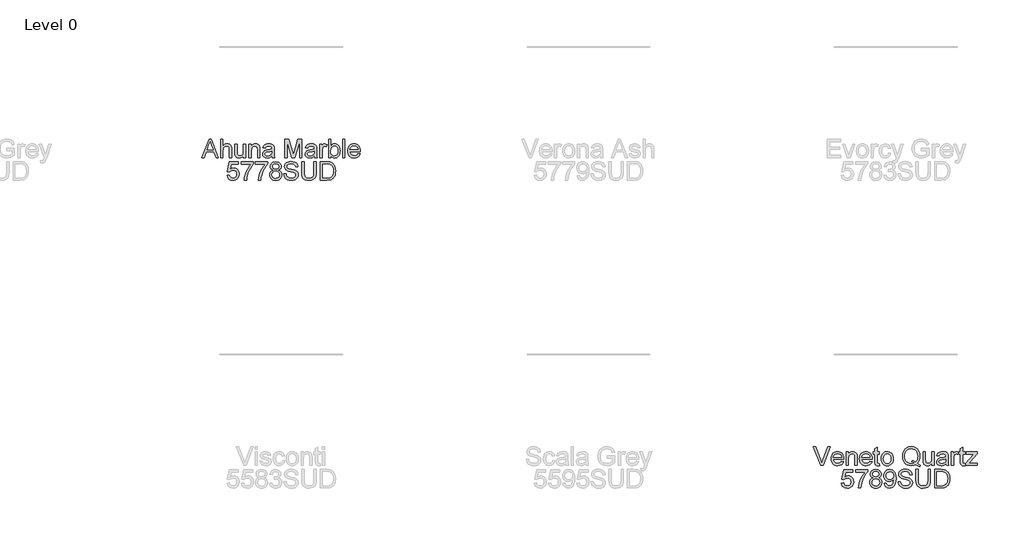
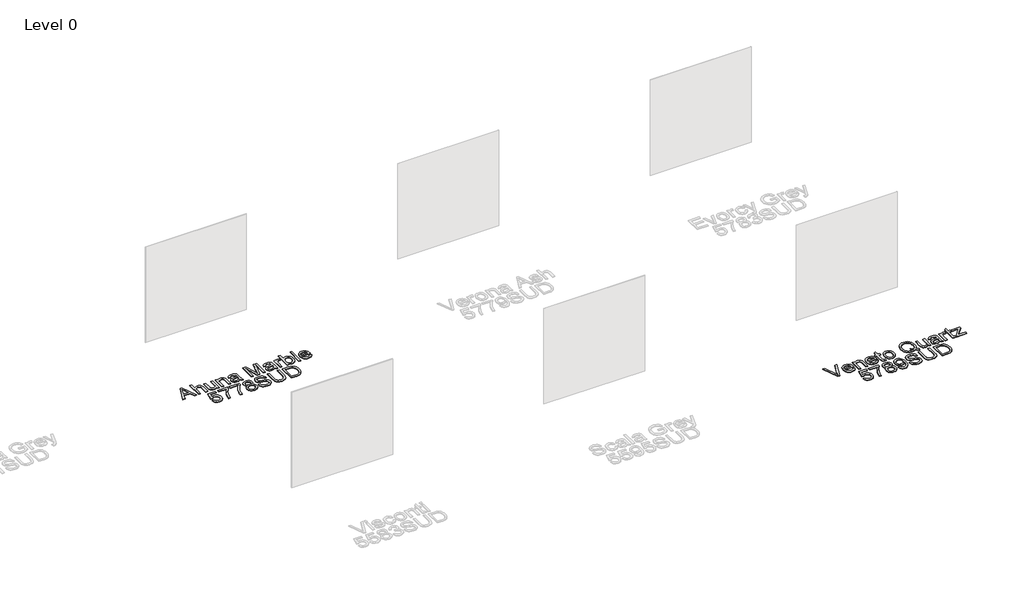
# One storey, part 8 of 12: 2 proxies.
"""IFC4 building model written with IfcOpenShell, lengths in millimetres."""

from ifc_helpers import new_model, si_unit, origin, origin_with_axes, place, context, project, spatial, polyline, outline, extrude, element, save

model = new_model("IFC4")

# Units and contexts
model_context = context("Model", 3, world=origin())
ifc_project = project(units=[si_unit("LENGTHUNIT", "METRE", prefix="MILLI")], contexts=[model_context])

# Site, building, storey
site = spatial("IfcSite", under=ifc_project)
building = spatial("IfcBuilding", under=site)
storey = spatial("IfcBuildingStorey", under=building, Name="Level 0", Elevation=0.0)

# Proxies
placement = place(None, origin())
element("IfcBuildingElementProxy", 1, Name="300mm Arial", ObjectType="300mm Arial", at=placement, inside=storey, context=model_context, shape_type="SweptSolid", body=[
    extrude(outline(polyline([(-747.7363949, -12002.860494), (-627.4389825, -11701.4915635), (-595.3596725, -11701.4915635), (-475.0622601, -12002.860494), (-514.867092, -12002.860494), (-549.3744231, -11908.6827032), (-673.4978083, -11908.6827032), (-707.931563, -12002.860494), (-747.7363949, -12002.860494)]), holes=[polyline([(-659.6654453, -11871.0115869), (-563.1332097, -11871.0115869), (-590.282901, -11796.9201531), (-611.3993275, -11739.1626798), (-630.1613092, -11790.44543), (-659.6654453, -11871.0115869)])]), origin_with_axes(), (0.0, 0.0, 1.0), 10.0),
    extrude(outline(polyline([(-439.5248593, -12002.860494), (-439.5248593, -11701.4915635), (-401.853743, -11701.4915635), (-401.853743, -11812.2976205), (-388.0167815, -11796.7821973), (-372.4783657, -11785.6997522), (-355.2384957, -11779.0502852), (-336.2971715, -11776.8337961), (-313.5436701, -11779.2526203), (-293.9907421, -11786.5090926), (-278.5948806, -11798.0329961), (-268.3125788, -11813.2541137), (-262.5184374, -11834.1682051), (-260.5870569, -11862.7710302), (-260.5870569, -12002.860494), (-298.2581732, -12002.860494), (-298.2581732, -11866.6705794), (-301.2564115, -11843.0893435), (-310.2511262, -11826.9393239), (-324.7456768, -11817.6135153), (-344.2434226, -11814.5049125), (-360.1635159, -11816.6018398), (-375.108722, -11822.8926219), (-387.4879511, -11832.7702535), (-395.7101137, -11845.6277292), (-400.3178357, -11862.7158479), (-401.853743, -11885.2854083), (-401.853743, -12002.860494), (-439.5248593, -12002.860494)])), origin_with_axes(), (0.0, 0.0, 1.0), 10.0),
    extrude(outline(polyline([(-67.5225858, -12002.860494), (-67.5225858, -11964.8214957), (-81.1526137, -11983.5236966), (-97.0267218, -11996.8824116), (-115.1449101, -12004.8976405), (-135.5071785, -12007.5693835), (-153.855293, -12005.6931853), (-170.9342147, -12000.0645908), (-185.2632184, -11991.6033049), (-195.3615791, -11981.2290327), (-206.58198, -11953.4907302), (-208.789272, -11918.4683643), (-208.789272, -11781.5426857), (-171.1181557, -11781.5426857), (-171.1181557, -11900.7364521), (-168.8372873, -11939.1433324), (-163.3466485, -11951.9548229), (-153.9380665, -11961.6944987), (-141.2369406, -11967.8473251), (-125.8686703, -11969.8982672), (-109.6174831, -11967.8013398), (-94.4147597, -11961.5105577), (-81.8791807, -11951.605335), (-73.6294269, -11938.6650858), (-69.0492961, -11920.9423707), (-67.5225858, -11896.6897502), (-67.5225858, -11781.5426857), (-29.8514695, -11781.5426857), (-29.8514695, -12002.860494), (-67.5225858, -12002.860494)])), origin_with_axes(), (0.0, 0.0, 1.0), 10.0),
    extrude(outline(polyline([(21.9463154, -12002.860494), (21.9463154, -11781.5426857), (59.6174317, -11781.5426857), (59.6174317, -11812.4447733), (72.7048337, -11796.8649708), (88.4225919, -11785.7365404), (106.7707064, -11779.0594822), (127.7491772, -11776.8337961), (146.3180209, -11778.6272209), (163.3233662, -11784.0074951), (177.5052171, -11792.303234), (187.6035778, -11802.8430532), (198.8975551, -11830.5445674), (200.8841179, -11866.964885), (200.8841179, -12002.860494), (163.2130016, -12002.860494), (163.2130016, -11872.0416565), (158.871994, -11838.7115477), (152.8663204, -11828.7879309), (143.5313148, -11821.0900002), (131.5659529, -11816.1511844), (117.6692106, -11814.5049125), (95.6054879, -11818.2021265), (76.7975209, -11829.2937687), (69.2812319, -11838.3482643), (63.912454, -11850.7228949), (59.6174317, -11885.4325611), (59.6174317, -12002.860494), (21.9463154, -12002.860494)])), origin_with_axes(), (0.0, 0.0, 1.0), 10.0),
    extrude(outline(polyline([(393.9485889, -11974.6071568), (375.9499623, -11990.0398064), (357.4179068, -12000.1381672), (337.9293581, -12005.7115794), (317.0612519, -12007.5693835), (285.5797502, -12003.0996173), (262.3571993, -11989.6903186), (248.0373926, -11969.3280501), (243.2641237, -11943.9993748), (245.0667455, -11928.3827841), (250.4746108, -11914.2009331), (258.8163351, -11902.0608273), (269.4205336, -11892.5694718), (295.7976726, -11880.2086368), (328.3920174, -11874.5432541), (366.9092623, -11868.5835657), (393.7278597, -11861.5938078), (393.9485889, -11853.2060983), (391.3550209, -11836.3938912), (383.5743167, -11825.3942195), (366.1734983, -11817.2272392), (341.9300748, -11814.5049125), (319.4892731, -11816.3167313), (303.8175001, -11821.7521878), (293.1305282, -11831.8045633), (285.6441295, -11847.4671392), (247.9730132, -11842.7582497), (254.5121157, -11822.156858), (264.2701856, -11805.9700502), (278.1577309, -11793.590821), (297.0852596, -11784.4121652), (320.2342341, -11778.7283884), (346.7861171, -11776.8337961), (372.2527483, -11778.5076592), (392.4402727, -11783.5292485), (407.6613903, -11791.0800264), (418.2288006, -11800.3414556), (425.2369526, -11811.7917827), (429.7802953, -11825.9092543), (431.6197052, -11858.8714811), (431.6197052, -11905.7396473), (433.5326916, -11971.1858542), (441.0374843, -12002.860494), (403.366368, -12002.860494), (393.9485889, -11974.6071568)]), holes=[polyline([(393.9485889, -11899.2649241), (333.1744833, -11910.8164188), (300.7640796, -11916.9232599), (286.0855879, -11926.8560738), (280.93524, -11941.3506244), (283.7403402, -11952.5526311), (292.1556409, -11961.7312869), (305.9972009, -11967.8565221), (325.0810794, -11969.8982672), (345.3145892, -11967.64499), (363.1936541, -11960.8851583), (377.6882047, -11950.9247533), (387.7681714, -11939.069756), (392.2379377, -11926.8560738), (393.7278597, -11909.933502), (393.9485889, -11899.2649241)])]), origin_with_axes(), (0.0, 0.0, 1.0), 10.0),
    extrude(outline(polyline([(605.8486182, -12002.860494), (605.8486182, -11701.4915635), (670.6694257, -11701.4915635), (732.3264481, -11913.9066275), (744.7608595, -11958.2731962), (758.2253406, -11910.2278076), (818.8522934, -11701.4915635), (883.6731009, -11701.4915635), (883.6731009, -12002.860494), (846.0019846, -12002.860494), (846.0019846, -11739.1626798), (770.29187, -12002.860494), (719.2298491, -12002.860494), (643.5197345, -11739.1626798), (643.5197345, -12002.860494), (605.8486182, -12002.860494)])), origin_with_axes(), (0.0, 0.0, 1.0), 10.0),
    extrude(outline(polyline([(1086.1553511, -11974.6071568), (1068.1567244, -11990.0398064), (1049.6246689, -12000.1381672), (1030.1361202, -12005.7115794), (1009.2680141, -12007.5693835), (977.7865123, -12003.0996173), (954.5639614, -11989.6903186), (940.2441547, -11969.3280501), (935.4708858, -11943.9993748), (937.2735076, -11928.3827841), (942.6813729, -11914.2009331), (951.0230972, -11902.0608273), (961.6272957, -11892.5694718), (988.0044347, -11880.2086368), (1020.5987795, -11874.5432541), (1059.1160244, -11868.5835657), (1085.9346219, -11861.5938078), (1086.1553511, -11853.2060983), (1083.561783, -11836.3938912), (1075.7810788, -11825.3942195), (1058.3802604, -11817.2272392), (1034.1368369, -11814.5049125), (1011.6960352, -11816.3167313), (996.0242622, -11821.7521878), (985.3372903, -11831.8045633), (977.8508917, -11847.4671392), (940.1797754, -11842.7582497), (946.7188778, -11822.156858), (956.4769478, -11805.9700502), (970.3644931, -11793.590821), (989.2920217, -11784.4121652), (1012.4409963, -11778.7283884), (1038.9928793, -11776.8337961), (1064.4595104, -11778.5076592), (1084.6470349, -11783.5292485), (1099.8681524, -11791.0800264), (1110.4355627, -11800.3414556), (1117.4437147, -11811.7917827), (1121.9870574, -11825.9092543), (1123.8264674, -11858.8714811), (1123.8264674, -11905.7396473), (1125.7394537, -11971.1858542), (1133.2442464, -12002.860494), (1095.5731301, -12002.860494), (1086.1553511, -11974.6071568)]), holes=[polyline([(1086.1553511, -11899.2649241), (1025.3812455, -11910.8164188), (992.9708417, -11916.9232599), (978.2923501, -11926.8560738), (973.1420021, -11941.3506244), (975.9471023, -11952.5526311), (984.362403, -11961.7312869), (998.2039631, -11967.8565221), (1017.2878416, -11969.8982672), (1037.5213513, -11967.64499), (1055.4004163, -11960.8851583), (1069.8949669, -11950.9247533), (1079.9749335, -11939.069756), (1084.4446998, -11926.8560738), (1085.9346219, -11909.933502), (1086.1553511, -11899.2649241)])]), origin_with_axes(), (0.0, 0.0, 1.0), 10.0),
    extrude(outline(polyline([(1175.6242523, -12002.860494), (1175.6242523, -11781.5426857), (1208.586479, -11781.5426857), (1208.586479, -11814.2841833), (1220.7633731, -11795.3014723), (1231.9837739, -11784.1178596), (1243.240963, -11778.654812), (1255.5282216, -11776.8337961), (1274.2902034, -11779.7400639), (1293.3464907, -11788.4588672), (1280.7649265, -11822.2304343), (1267.5211747, -11816.4362929), (1254.2774229, -11814.5049125), (1243.0294308, -11816.3627165), (1232.9770553, -11821.9361288), (1224.8560603, -11830.8020848), (1219.4022097, -11842.5375205), (1214.8220789, -11863.5803706), (1213.2953686, -11886.5362071), (1213.2953686, -12002.860494), (1175.6242523, -12002.860494)])), origin_with_axes(), (0.0, 0.0, 1.0), 10.0),
    extrude(outline(polyline([(1354.5620547, -12002.860494), (1316.8909384, -12002.860494), (1316.8909384, -11701.4915635), (1354.5620547, -11701.4915635), (1354.5620547, -11813.2541137), (1366.9504809, -11797.3202248), (1380.9391938, -11785.9388755), (1396.5281933, -11779.110066), (1413.7174796, -11776.8337961), (1433.1232548, -11778.8847383), (1451.4621723, -11785.0375646), (1467.6857683, -11794.9059992), (1480.7455791, -11808.1037657), (1490.9818956, -11824.5021057), (1498.7350086, -11843.9722603), (1503.6186421, -11865.7048891), (1505.24652, -11888.8906519), (1503.5611606, -11915.64487), (1498.5050824, -11939.1801206), (1490.0782854, -11959.4964038), (1478.2807697, -11976.5937195), (1464.1196122, -11990.1455725), (1448.6018898, -11999.8254675), (1431.7276025, -12005.6334045), (1413.4967504, -12007.5693835), (1395.7418456, -12005.0723845), (1380.0010947, -11997.5813874), (1366.2744978, -11985.0963921), (1354.5620547, -11967.6173988), (1354.5620547, -12002.860494)]), holes=[polyline([(1354.5620547, -11890.6564855), (1357.1372287, -11922.0736078), (1364.8627506, -11943.3371872), (1373.9908226, -11954.9576597), (1384.5996196, -11963.2579972), (1396.6891417, -11968.2381997), (1410.2593888, -11969.8982672), (1432.0012147, -11965.0054367), (1450.5792555, -11950.3269451), (1463.3263666, -11925.9547629), (1467.5754037, -11891.9808606), (1463.5011106, -11857.5103177), (1451.2782313, -11833.414047), (1433.2796047, -11819.2321961), (1411.8780696, -11814.5049125), (1390.1362437, -11819.397743), (1371.5582029, -11834.0762346), (1358.8110918, -11858.0069584), (1354.5620547, -11890.6564855)])]), origin_with_axes(), (0.0, 0.0, 1.0), 10.0),
    extrude(outline(polyline([(1547.6265258, -12002.860494), (1547.6265258, -11701.4915635), (1585.2976421, -11701.4915635), (1585.2976421, -12002.860494), (1547.6265258, -12002.860494)])), origin_with_axes(), (0.0, 0.0, 1.0), 10.0),
    extrude(outline(polyline([(1796.7562129, -11936.9360404), (1833.6915653, -11941.64493), (1820.3834341, -11969.4752029), (1799.1474459, -11990.2789297), (1770.4618473, -12003.2467701), (1734.804885, -12007.5693835), (1711.4305827, -12005.7046817), (1690.6038632, -12000.1105761), (1672.3247266, -11990.7870668), (1656.5931728, -11977.7341537), (1643.9426307, -11961.3151204), (1634.9065292, -11941.8932503), (1629.4848683, -11919.4685435), (1627.677648, -11894.0409998), (1629.5032624, -11867.7512327), (1634.9801056, -11844.5792656), (1644.1081776, -11824.5250983), (1656.8874784, -11807.5887309), (1672.5776455, -11794.133447), (1690.4383163, -11784.5225298), (1710.469491, -11778.7559796), (1732.6711694, -11776.8337961), (1754.1577772, -11778.751381), (1773.5888443, -11784.5041357), (1790.9643708, -11794.0920602), (1806.2843566, -11807.5151545), (1818.7900452, -11824.4147337), (1827.7226799, -11844.4321128), (1833.0822607, -11867.5672917), (1834.8687876, -11893.8202706), (1834.6480584, -11903.9738137), (1665.3487643, -11903.9738137), (1671.8694726, -11932.1719686), (1687.0170138, -11952.902119), (1708.8784013, -11965.6492302), (1735.5406489, -11969.8982672), (1755.5902177, -11967.9300985), (1772.4760013, -11962.0255925), (1786.1979997, -11951.8168672), (1796.7562129, -11936.9360404)]), holes=[polyline([(1665.3487643, -11866.3026974), (1797.1976713, -11866.3026974), (1792.1025057, -11846.4002814), (1782.1145095, -11832.1632482), (1760.1519544, -11818.9194964), (1732.5240166, -11814.5049125), (1707.1309619, -11818.0273826), (1686.134097, -11828.5947929), (1671.5383788, -11845.0667092), (1665.3487643, -11866.3026974)])]), origin_with_axes(), (0.0, 0.0, 1.0), 10.0),
    extrude(outline(polyline([(-333.5748447, -12288.7338254), (-295.9037284, -12284.0249358), (-288.9875469, -12306.6404815), (-276.9210175, -12322.8364863), (-259.7593224, -12332.5761621), (-237.557644, -12335.8227207), (-210.5551055, -12331.3069693), (-190.3215958, -12317.7597148), (-177.6848493, -12296.7444558), (-173.4726004, -12269.8246908), (-177.4181348, -12244.4776213), (-189.254738, -12225.0902402), (-209.0743805, -12212.7845875), (-236.9690328, -12208.6827032), (-255.2435709, -12210.3197781), (-270.0416242, -12215.2310027), (-291.1948389, -12232.2271509), (-328.8659552, -12227.5182614), (-295.9037284, -12072.1249066), (-149.9281527, -12072.1249066), (-149.9281527, -12109.7960229), (-265.4430992, -12109.7960229), (-281.5563306, -12192.790201), (-254.6457627, -12176.4562404), (-226.4476077, -12171.0115869), (-208.1017925, -12172.6992456), (-191.2504978, -12177.7622215), (-175.8937238, -12186.2005148), (-162.0314704, -12198.0141254), (-150.5558514, -12212.4810848), (-142.3589807, -12228.8794248), (-137.4408583, -12247.2091452), (-135.8014841, -12267.470246), (-141.7059901, -12305.1413624), (-149.0866227, -12321.9351754), (-159.4195082, -12337.3678251), (-175.0728871, -12353.1729553), (-193.3382282, -12364.4623341), (-214.2155314, -12371.2359613), (-237.7047968, -12373.4938371), (-274.7045285, -12367.6904986), (-290.3831992, -12360.4363255), (-304.1810733, -12350.2804832), (-315.6612908, -12337.7288093), (-324.3869919, -12323.2871418), (-333.5748447, -12288.7338254)])), origin_with_axes(), (0.0, 0.0, 1.0), 10.0),
    extrude(outline(polyline([(-102.8392574, -12109.7960229), (-102.8392574, -12072.1249066), (94.9341033, -12072.1249066), (94.9341033, -12102.5855358), (66.7451454, -12138.2608923), (38.832099, -12183.6299393), (14.2115965, -12234.5540045), (-4.0997299, -12286.8944154), (-13.0760505, -12326.0554538), (-18.0792457, -12368.7849475), (-55.750362, -12368.7849475), (-51.6760689, -12329.9550029), (-40.7775648, -12283.8042066), (-23.3491552, -12234.8850983), (0.3148541, -12187.7502177), (27.9427919, -12145.1402856), (57.2629869, -12109.7960229), (-102.8392574, -12109.7960229)])), origin_with_axes(), (0.0, 0.0, 1.0), 10.0),
    extrude(outline(polyline([(127.89633, -12109.7960229), (127.89633, -12072.1249066), (325.6696906, -12072.1249066), (325.6696906, -12102.5855358), (297.4807327, -12138.2608923), (269.5676864, -12183.6299393), (244.9471838, -12234.5540045), (226.6358575, -12286.8944154), (217.6595368, -12326.0554538), (212.6563417, -12368.7849475), (174.9852254, -12368.7849475), (179.0595185, -12329.9550029), (189.9580226, -12283.8042066), (207.3864321, -12234.8850983), (231.0504415, -12187.7502177), (258.6783793, -12145.1402856), (287.9985743, -12109.7960229), (127.89633, -12109.7960229)])), origin_with_axes(), (0.0, 0.0, 1.0), 10.0),
    extrude(outline(polyline([(413.5199111, -12202.7965913), (393.3507807, -12192.8637774), (379.1965209, -12179.3992964), (370.8364026, -12162.6790597), (368.0496965, -12142.9789789), (369.5672097, -12127.6153071), (374.1197494, -12113.5300252), (381.7073155, -12100.7231332), (392.3299082, -12089.1946312), (405.477091, -12079.6664875), (420.6384277, -12072.8606706), (457.0035629, -12067.4160171), (493.5894273, -12072.9894293), (508.9163109, -12079.9561946), (522.2658288, -12089.709666), (533.0815595, -12101.4634957), (540.8070814, -12114.4313361), (545.4423945, -12128.613187), (546.9874989, -12144.0090485), (544.237581, -12163.0745329), (535.9878273, -12179.509661), (522.1462672, -12192.8913686), (502.6209303, -12202.7965913), (525.8066931, -12214.7435591), (542.6832796, -12232.3375155), (552.9747784, -12254.732332), (556.405278, -12281.0818799), (554.7038238, -12299.8714528), (549.5994611, -12317.0975272), (541.09219, -12332.7601031), (529.1820104, -12346.8591806), (514.4943217, -12358.5118428), (497.6545234, -12366.8351729), (478.6626154, -12371.829171), (457.5185977, -12373.4938371), (436.37458, -12371.8222732), (417.382672, -12366.8075818), (400.5428737, -12358.4497627), (385.855185, -12346.748816), (373.9450054, -12332.5508703), (365.4377343, -12316.702054), (360.3333716, -12299.2023674), (358.6319174, -12280.0518103), (362.2003727, -12252.6813898), (372.9057388, -12230.1670117), (390.1961926, -12213.2812282), (413.5199111, -12202.7965913)]), holes=[polyline([(405.7208128, -12144.0826249), (409.0593419, -12160.52695), (419.0749292, -12173.6603373), (435.4732691, -12182.268776), (457.9600561, -12185.1382555), (479.9226112, -12182.2871701), (496.0726308, -12173.7339137), (506.0054447, -12161.0419848), (509.3163826, -12145.774882), (505.8950801, -12129.9283651), (495.6311724, -12116.822569), (479.2604236, -12108.0209923), (457.5185977, -12105.0871334), (435.638816, -12107.9566129), (419.2956584, -12116.5650516), (409.1145242, -12129.1834041), (405.7208128, -12144.0826249)]), polyline([(396.3030337, -12278.7274351), (402.5938158, -12307.0911369), (411.3034221, -12319.2588339), (424.8506765, -12328.317928), (441.0742725, -12333.9465226), (457.8129033, -12335.8227207), (483.4542784, -12331.8771864), (502.6945067, -12320.0405832), (514.7242479, -12302.1155329), (518.7341617, -12279.9046575), (514.5954892, -12257.316703), (502.1794719, -12238.9961796), (482.4977852, -12226.8560738), (456.5621045, -12222.8093718), (431.2794144, -12226.8008915), (412.2323241, -12238.7754504), (400.2853563, -12256.7464859), (396.3030337, -12278.7274351)])]), origin_with_axes(), (0.0, 0.0, 1.0), 10.0),
    extrude(outline(polyline([(589.3675048, -12265.1893777), (627.0386211, -12265.1893777), (631.3612345, -12286.0942721), (639.1787269, -12302.8972822), (651.3740151, -12316.2330045), (668.8300157, -12326.7360355), (690.1671714, -12333.5510494), (714.0059247, -12335.8227207), (734.9935926, -12334.1028724), (753.3692982, -12328.9433274), (768.259322, -12320.7763471), (778.7899441, -12310.0341929), (785.0531351, -12297.700949), (787.1408654, -12284.7606998), (785.5773669, -12272.1515444), (780.8868715, -12261.2530403), (771.3587278, -12251.9548229), (755.2822846, -12244.1465276), (700.4310791, -12229.7623415), (664.4246288, -12220.2433949), (641.3860189, -12211.1843008), (622.6332342, -12198.510766), (609.3434971, -12183.1516928), (601.4248372, -12165.4381747), (598.7852838, -12145.7013056), (602.0502366, -12123.637583), (611.8450947, -12103.0637824), (627.9123408, -12085.6261758), (649.9944576, -12072.9710352), (676.5003553, -12065.2731044), (705.8389444, -12062.7071275), (737.6239488, -12065.3926661), (765.4358277, -12073.4492818), (788.2812996, -12086.7114277), (805.1670831, -12105.013557), (815.8540551, -12127.2152354), (820.1030921, -12152.1760288), (782.4319758, -12152.1760288), (775.5157943, -12129.6984389), (761.0948201, -12113.4748429), (738.5620479, -12103.6523936), (707.3104724, -12100.3782438), (675.3231329, -12103.6156054), (653.3789719, -12113.3276901), (640.6870431, -12127.6199056), (636.4564002, -12144.5976597), (639.4546384, -12159.0738162), (648.4493532, -12170.7172813), (669.7129325, -12181.1283418), (709.9592228, -12191.7601314), (751.4931, -12201.8584922), (776.6194403, -12210.669266), (798.0945518, -12224.3360821), (813.076546, -12241.2034716), (821.8781228, -12261.0874934), (824.8119817, -12283.8042066), (821.4366644, -12307.0267576), (811.3107125, -12328.869751), (794.8479932, -12347.668521), (772.4623738, -12361.7584014), (745.5426088, -12370.5599781), (715.4774527, -12373.4938371), (678.5696915, -12370.3300519), (648.1918358, -12360.8386964), (623.9943976, -12344.9829824), (605.627889, -12322.7261217), (593.837271, -12295.6132187), (589.3675048, -12265.1893777)])), origin_with_axes(), (0.0, 0.0, 1.0), 10.0),
    extrude(outline(polyline([(1079.0920167, -12067.4160171), (1116.7631331, -12067.4160171), (1116.7631331, -12241.277048), (1114.2063532, -12281.9923878), (1106.5360136, -12313.3451308), (1092.2070099, -12337.533372), (1069.6742377, -12356.7552063), (1038.8825147, -12369.3091794), (999.7766586, -12373.4938371), (961.5261281, -12369.8518053), (930.9459373, -12358.92571), (908.026889, -12341.0926303), (892.7597862, -12316.7296452), (884.1789387, -12284.052527), (881.3186561, -12241.277048), (881.3186561, -12067.4160171), (918.9897724, -12067.4160171), (918.9897724, -12239.9526728), (920.8475765, -12273.8070134), (926.4209887, -12297.3790523), (936.5193495, -12313.7038158), (951.9519992, -12325.8163305), (972.0751444, -12333.3211232), (996.2449914, -12335.8227207), (1034.5599012, -12330.8747079), (1048.9027005, -12324.6896919), (1060.0357294, -12316.0306694), (1068.3728551, -12303.8537754), (1074.3279449, -12287.1151446), (1079.0920167, -12239.9526728), (1079.0920167, -12067.4160171)])), origin_with_axes(), (0.0, 0.0, 1.0), 10.0),
    extrude(outline(polyline([(1182.6875866, -12368.7849475), (1182.6875866, -12067.4160171), (1286.6510384, -12067.4160171), (1340.4353861, -12071.7570246), (1364.4580804, -12080.12634), (1384.7283783, -12093.3149095), (1405.5688934, -12116.270746), (1420.4129319, -12144.8183889), (1429.2972821, -12178.406015), (1432.2587321, -12216.4818015), (1430.2537752, -12248.8278259), (1424.2389046, -12277.2926953), (1415.0786429, -12301.5269217), (1403.6375129, -12321.1810173), (1390.4673375, -12336.6964405), (1376.1199397, -12348.5146496), (1359.6480233, -12357.2794381), (1340.1042923, -12363.6345996), (1291.6542336, -12368.7849475), (1182.6875866, -12368.7849475)]), holes=[polyline([(1220.3587029, -12331.1138312), (1287.0189204, -12331.1138312), (1314.591676, -12329.7526678), (1335.5057674, -12325.6691777), (1351.287905, -12319.1024841), (1363.464799, -12310.2917103), (1376.552201, -12293.9853408), (1386.3838473, -12272.8781114), (1392.5366737, -12246.8780514), (1394.5876158, -12215.8931903), (1390.568505, -12174.8375597), (1378.5111726, -12144.5240833), (1360.696487, -12123.7019623), (1339.4053165, -12111.1203981), (1317.737067, -12106.5954496), (1285.9888508, -12105.0871334), (1220.3587029, -12105.0871334), (1220.3587029, -12331.1138312)])]), origin_with_axes(), (0.0, 0.0, 1.0), 10.0),
])
element("IfcBuildingElementProxy", 2, Name="300mm Arial", ObjectType="300mm Arial", at=placement, inside=storey, context=model_context, shape_type="SweptSolid", body=[
    extrude(outline(polyline([(9329.2980949, -17012.860494), (9209.3685645, -16711.4915635), (9249.6884311, -16711.4915635), (9329.9602825, -16928.6155171), (9346.2206667, -16977.5438224), (9362.2603217, -16928.6155171), (9442.7529022, -16711.4915635), (9483.0727689, -16711.4915635), (9368.22001, -17012.860494), (9329.2980949, -17012.860494)])), origin_with_axes(), (0.0, 0.0, 1.0), 10.0),
    extrude(outline(polyline([(9668.3381416, -16946.9360404), (9705.273494, -16951.64493), (9691.9653628, -16979.4752029), (9670.7293746, -17000.2789297), (9642.043776, -17013.2467701), (9606.3868137, -17017.5693835), (9583.0125114, -17015.7046817), (9562.1857919, -17010.1105761), (9543.9066553, -17000.7870668), (9528.1751015, -16987.7341537), (9515.5245594, -16971.3151204), (9506.4884579, -16951.8932503), (9501.066797, -16929.4685435), (9499.2595767, -16904.0409998), (9501.0851911, -16877.7512327), (9506.5620343, -16854.5792656), (9515.6901063, -16834.5250983), (9528.4694071, -16817.5887309), (9544.1595742, -16804.133447), (9562.020245, -16794.5225298), (9582.0514197, -16788.7559796), (9604.2530981, -16786.8337961), (9625.7397059, -16788.751381), (9645.170773, -16794.5041357), (9662.5462995, -16804.0920602), (9677.8662853, -16817.5151545), (9690.3719739, -16834.4147337), (9699.3046086, -16854.4321128), (9704.6641894, -16877.5672917), (9706.4507163, -16903.8202706), (9706.2299871, -16913.9738137), (9536.930693, -16913.9738137), (9543.4514013, -16942.1719686), (9558.5989425, -16962.902119), (9580.46033, -16975.6492302), (9607.1225776, -16979.8982672), (9627.1721464, -16977.9300985), (9644.05793, -16972.0255925), (9657.7799284, -16961.8168672), (9668.3381416, -16946.9360404)]), holes=[polyline([(9536.930693, -16876.3026974), (9668.7796, -16876.3026974), (9663.6844344, -16856.4002814), (9653.6964382, -16842.1632482), (9631.7338831, -16828.9194964), (9604.1059453, -16824.5049125), (9578.7128906, -16828.0273826), (9557.7160257, -16838.5947929), (9543.1203075, -16855.0667092), (9536.930693, -16876.3026974)])]), origin_with_axes(), (0.0, 0.0, 1.0), 10.0),
    extrude(outline(polyline([(9744.1218326, -17012.860494), (9744.1218326, -16791.5426857), (9781.792949, -16791.5426857), (9781.792949, -16822.4447733), (9794.8803509, -16806.8649708), (9810.5981092, -16795.7365404), (9828.9462237, -16789.0594822), (9849.9246945, -16786.8337961), (9868.4935382, -16788.6272209), (9885.4988834, -16794.0074951), (9899.6807343, -16802.303234), (9909.7790951, -16812.8430532), (9921.0730723, -16840.5445674), (9923.0596351, -16876.964885), (9923.0596351, -17012.860494), (9885.3885188, -17012.860494), (9885.3885188, -16882.0416565), (9881.0475113, -16848.7115477), (9875.0418377, -16838.7879309), (9865.7068321, -16831.0900002), (9853.7414702, -16826.1511844), (9839.8447278, -16824.5049125), (9817.7810051, -16828.2021265), (9798.9730381, -16839.2937687), (9791.4567491, -16848.3482643), (9786.0879712, -16860.7228949), (9781.792949, -16895.4325611), (9781.792949, -17012.860494), (9744.1218326, -17012.860494)])), origin_with_axes(), (0.0, 0.0, 1.0), 10.0),
    extrude(outline(polyline([(10129.8093164, -16946.9360404), (10166.7446687, -16951.64493), (10153.4365375, -16979.4752029), (10132.2005494, -17000.2789297), (10103.5149508, -17013.2467701), (10067.8579884, -17017.5693835), (10044.4836861, -17015.7046817), (10023.6569667, -17010.1105761), (10005.37783, -17000.7870668), (9989.6462762, -16987.7341537), (9976.9957341, -16971.3151204), (9967.9596326, -16951.8932503), (9962.5379717, -16929.4685435), (9960.7307514, -16904.0409998), (9962.5563658, -16877.7512327), (9968.033209, -16854.5792656), (9977.161281, -16834.5250983), (9989.9405818, -16817.5887309), (10005.6307489, -16804.133447), (10023.4914198, -16794.5225298), (10043.5225944, -16788.7559796), (10065.7242728, -16786.8337961), (10087.2108806, -16788.751381), (10106.6419477, -16794.5041357), (10124.0174742, -16804.0920602), (10139.3374601, -16817.5151545), (10151.8431486, -16834.4147337), (10160.7757833, -16854.4321128), (10166.1353642, -16877.5672917), (10167.9218911, -16903.8202706), (10167.7011619, -16913.9738137), (9998.4018677, -16913.9738137), (10004.9225761, -16942.1719686), (10020.0701172, -16962.902119), (10041.9315048, -16975.6492302), (10068.5937524, -16979.8982672), (10088.6433211, -16977.9300985), (10105.5291047, -16972.0255925), (10119.2511031, -16961.8168672), (10129.8093164, -16946.9360404)]), holes=[polyline([(9998.4018677, -16876.3026974), (10130.2507748, -16876.3026974), (10125.1556092, -16856.4002814), (10115.167613, -16842.1632482), (10093.2050579, -16828.9194964), (10065.57712, -16824.5049125), (10040.1840653, -16828.0273826), (10019.1872004, -16838.5947929), (10004.5914823, -16855.0667092), (9998.4018677, -16876.3026974)])]), origin_with_axes(), (0.0, 0.0, 1.0), 10.0),
    extrude(outline(polyline([(10285.6441295, -16981.4433716), (10290.3530191, -17013.96414), (10262.1732583, -17017.5693835), (10244.0918582, -17016.005885), (10230.6089831, -17011.3153896), (10221.0808394, -17004.0865084), (10214.8636337, -16994.9078526), (10211.4423311, -16979.1441091), (10210.3018969, -16952.1599648), (10210.3018969, -16829.213802), (10182.0485597, -16829.213802), (10182.0485597, -16791.5426857), (10210.3018969, -16791.5426857), (10210.3018969, -16737.758338), (10247.9730132, -16715.6118419), (10247.9730132, -16791.5426857), (10285.6441295, -16791.5426857), (10285.6441295, -16829.213802), (10247.9730132, -16829.213802), (10247.9730132, -16951.0563188), (10249.959576, -16970.4804881), (10256.3975109, -16977.3598814), (10269.2365926, -16979.8982672), (10285.6441295, -16981.4433716)])), origin_with_axes(), (0.0, 0.0, 1.0), 10.0),
    extrude(outline(polyline([(10313.8974668, -16902.2015898), (10315.9346133, -16873.5389839), (10322.046053, -16848.8403064), (10332.2317857, -16828.1055575), (10346.4918116, -16811.334737), (10360.8484064, -16800.6155754), (10376.6949234, -16792.9590314), (10394.0313624, -16788.3651049), (10412.8577235, -16786.8337961), (10433.6407569, -16788.698498), (10452.4326291, -16794.2926036), (10469.23334, -16803.6161129), (10484.0428895, -16816.669026), (10496.1301124, -16833.0098843), (10504.7638429, -16852.1972296), (10509.9440813, -16874.2310619), (10511.6708274, -16899.1113811), (10508.6174068, -16937.1687735), (10499.4571451, -16966.1394806), (10484.4567568, -16987.8353213), (10463.8829562, -17004.0681143), (10439.4463947, -17014.1940662), (10412.8577235, -17017.5693835), (10391.7711874, -17015.7115794), (10372.8045713, -17010.1381672), (10355.9578751, -17000.8491468), (10341.231099, -16987.8445183), (10329.2726349, -16971.3450108), (10320.7308748, -16951.5713536), (10315.6058188, -16928.5235466), (10313.8974668, -16902.2015898)]), holes=[polyline([(10351.5685831, -16902.1280134), (10355.9279847, -16936.2214773), (10369.0061897, -16960.5108861), (10388.6878764, -16975.0514219), (10412.8577235, -16979.8982672), (10436.917206, -16975.0238308), (10456.5621045, -16960.4005215), (10469.6403094, -16935.789216), (10473.9997111, -16900.950791), (10469.6127183, -16867.8506085), (10456.4517399, -16843.8922936), (10436.7792502, -16829.3517577), (10412.8577235, -16824.5049125), (10388.6878764, -16829.3333636), (10369.0061897, -16843.8187172), (10355.9279847, -16868.0529436), (10351.5685831, -16902.1280134)])]), origin_with_axes(), (0.0, 0.0, 1.0), 10.0),
    extrude(outline(polyline([(10902.8765411, -16976.7344821), (10927.211935, -16995.3309169), (10949.5975544, -17008.1516044), (10939.4440114, -17035.7427541), (10908.3763769, -17021.340174), (10877.419107, -17000.4996589), (10842.5622879, -17013.3019524), (10804.21059, -17017.5693835), (10765.674951, -17012.6489618), (10730.8549201, -16997.8876968), (10701.6910749, -16974.2144904), (10680.123993, -16942.5582447), (10666.7974677, -16904.6572022), (10662.3552926, -16862.2496052), (10666.7882707, -16819.80522), (10680.0872048, -16781.3523544), (10701.5715133, -16749.2454533), (10730.5606145, -16725.8389613), (10765.2518867, -16711.5467458), (10803.842708, -16706.782674), (10842.7370319, -16711.6571104), (10877.603048, -16726.2804197), (10906.546164, -16749.6777146), (10927.6717875, -16780.8741078), (10940.5844456, -16818.2141303), (10944.8886649, -16860.0423132), (10942.2767027, -16894.8255558), (10934.4408162, -16925.8931903), (10921.3258231, -16953.2084285), (10902.8765411, -16976.7344821)]), holes=[polyline([(10814.5848622, -16926.6289543), (10846.259502, -16938.6035133), (10871.8273007, -16955.2501735), (10887.3105341, -16937.7757788), (10898.3699866, -16916.4018348), (10905.0056581, -16891.1283418), (10907.2175486, -16861.9552996), (10904.0905516, -16828.7999347), (10894.7095608, -16800.1143362), (10879.3045022, -16776.6250708), (10858.1053022, -16759.0587055), (10832.5467006, -16748.1050191), (10804.0634372, -16744.4537903), (10782.5791286, -16746.3000981), (10763.0078065, -16751.8390214), (10745.3494707, -16761.0705602), (10729.6041213, -16773.9947145), (10716.6638721, -16790.5838932), (10707.420837, -16810.8105052), (10701.8750159, -16834.6745504), (10700.0264089, -16862.1760288), (10701.8543226, -16888.9601373), (10707.3380636, -16912.4379063), (10716.4776319, -16932.609336), (10729.2730275, -16949.4744262), (10744.9103116, -16962.7848567), (10762.5755451, -16972.292307), (10782.2687282, -16977.9967772), (10803.9898608, -16979.8982672), (10824.9039522, -16977.9668867), (10844.5304566, -16972.1727453), (10825.235046, -16962.1479609), (10804.8727775, -16955.4709027), (10814.5848622, -16926.6289543)])]), origin_with_axes(), (0.0, 0.0, 1.0), 10.0),
    extrude(outline(polyline([(11137.953136, -17012.860494), (11137.953136, -16974.8214957), (11124.3231081, -16993.5236966), (11108.449, -17006.8824116), (11090.3308117, -17014.8976405), (11069.9685433, -17017.5693835), (11051.6204288, -17015.6931853), (11034.5415071, -17010.0645908), (11020.2125034, -17001.6033049), (11010.1141427, -16991.2290327), (10998.8937418, -16963.4907302), (10996.6864498, -16928.4683643), (10996.6864498, -16791.5426857), (11034.3575661, -16791.5426857), (11034.3575661, -16910.7364521), (11036.6384345, -16949.1433324), (11042.1290733, -16961.9548229), (11051.5376553, -16971.6944987), (11064.2387812, -16977.8473251), (11079.6070515, -16979.8982672), (11095.8582387, -16977.8013398), (11111.0609621, -16971.5105577), (11123.5965411, -16961.605335), (11131.8462949, -16948.6650858), (11136.4264257, -16930.9423707), (11137.953136, -16906.6897502), (11137.953136, -16791.5426857), (11175.6242523, -16791.5426857), (11175.6242523, -17012.860494), (11137.953136, -17012.860494)])), origin_with_axes(), (0.0, 0.0, 1.0), 10.0),
    extrude(outline(polyline([(11368.6887234, -16984.6071568), (11350.6900967, -17000.0398064), (11332.1580412, -17010.1381672), (11312.6694925, -17015.7115794), (11291.8013864, -17017.5693835), (11260.3198846, -17013.0996173), (11237.0973337, -16999.6903186), (11222.777527, -16979.3280501), (11218.0042581, -16953.9993748), (11219.8068799, -16938.3827841), (11225.2147452, -16924.2009331), (11233.5564695, -16912.0608273), (11244.160668, -16902.5694718), (11270.537807, -16890.2086368), (11303.1321518, -16884.5432541), (11341.6493967, -16878.5835657), (11368.4679942, -16871.5938078), (11368.6887234, -16863.2060983), (11366.0951553, -16846.3938912), (11358.3144511, -16835.3942195), (11340.9136327, -16827.2272392), (11316.6702092, -16824.5049125), (11294.2294075, -16826.3167313), (11278.5576345, -16831.7521878), (11267.8706626, -16841.8045633), (11260.384264, -16857.4671392), (11222.7131477, -16852.7582497), (11229.2522501, -16832.156858), (11239.0103201, -16815.9700502), (11252.8978654, -16803.590821), (11271.825394, -16794.4121652), (11294.9743686, -16788.7283884), (11321.5262516, -16786.8337961), (11346.9928827, -16788.5076592), (11367.1804072, -16793.5292485), (11382.4015247, -16801.0800264), (11392.968935, -16810.3414556), (11399.977087, -16821.7917827), (11404.5204297, -16835.9092543), (11406.3598397, -16868.8714811), (11406.3598397, -16915.7396473), (11408.272826, -16981.1858542), (11415.7776187, -17012.860494), (11378.1065024, -17012.860494), (11368.6887234, -16984.6071568)]), holes=[polyline([(11368.6887234, -16909.2649241), (11307.9146177, -16920.8164188), (11275.504214, -16926.9232599), (11260.8257224, -16936.8560738), (11255.6753744, -16951.3506244), (11258.4804746, -16962.5526311), (11266.8957753, -16971.7312869), (11280.7373354, -16977.8565221), (11299.8212139, -16979.8982672), (11320.0547236, -16977.64499), (11337.9337886, -16970.8851583), (11352.4283392, -16960.9247533), (11362.5083058, -16949.069756), (11366.9780721, -16936.8560738), (11368.4679942, -16919.933502), (11368.6887234, -16909.2649241)])]), origin_with_axes(), (0.0, 0.0, 1.0), 10.0),
    extrude(outline(polyline([(11458.1576246, -17012.860494), (11458.1576246, -16791.5426857), (11491.1198513, -16791.5426857), (11491.1198513, -16824.2841833), (11503.2967454, -16805.3014723), (11514.5171462, -16794.1178596), (11525.7743353, -16788.654812), (11538.0615939, -16786.8337961), (11556.8235757, -16789.7400639), (11575.879863, -16798.4588672), (11563.2982988, -16832.2304343), (11550.054547, -16826.4362929), (11536.8107951, -16824.5049125), (11525.5628031, -16826.3627165), (11515.5104276, -16831.9361288), (11507.3894326, -16840.8020848), (11501.935582, -16852.5375205), (11497.3554512, -16873.5803706), (11495.8287409, -16896.5362071), (11495.8287409, -17012.860494), (11458.1576246, -17012.860494)])), origin_with_axes(), (0.0, 0.0, 1.0), 10.0),
    extrude(outline(polyline([(11679.4754329, -16981.4433716), (11684.1843224, -17013.96414), (11656.0045616, -17017.5693835), (11637.9231615, -17016.005885), (11624.4402864, -17011.3153896), (11614.9121427, -17004.0865084), (11608.694937, -16994.9078526), (11605.2736344, -16979.1441091), (11604.1332003, -16952.1599648), (11604.1332003, -16829.213802), (11575.879863, -16829.213802), (11575.879863, -16791.5426857), (11604.1332003, -16791.5426857), (11604.1332003, -16737.758338), (11641.8043166, -16715.6118419), (11641.8043166, -16791.5426857), (11679.4754329, -16791.5426857), (11679.4754329, -16829.213802), (11641.8043166, -16829.213802), (11641.8043166, -16951.0563188), (11643.7908793, -16970.4804881), (11650.2288143, -16977.3598814), (11663.0678959, -16979.8982672), (11679.4754329, -16981.4433716)])), origin_with_axes(), (0.0, 0.0, 1.0), 10.0),
    extrude(outline(polyline([(11693.6021015, -17012.860494), (11693.6021015, -16977.3966696), (11823.6115986, -16829.213802), (11785.1311419, -16829.213802), (11703.0198806, -16829.213802), (11703.0198806, -16791.5426857), (11877.2487935, -16791.5426857), (11877.2487935, -16823.5484193), (11761.9545762, -16955.0294443), (11744.2962404, -16975.1893777), (11787.8534687, -16975.1893777), (11881.957683, -16975.1893777), (11881.957683, -17012.860494), (11693.6021015, -17012.860494)])), origin_with_axes(), (0.0, 0.0, 1.0), 10.0),
    extrude(outline(polyline([(9666.4251553, -17298.7338254), (9704.0962716, -17294.0249358), (9711.0124531, -17316.6404815), (9723.0789825, -17332.8364863), (9740.2406776, -17342.5761621), (9762.442356, -17345.8227207), (9789.4448945, -17341.3069693), (9809.6784042, -17327.7597148), (9822.3151507, -17306.7444558), (9826.5273996, -17279.8246908), (9822.5818652, -17254.4776213), (9810.745262, -17235.0902402), (9790.9256195, -17222.7845875), (9763.0309672, -17218.6827032), (9744.7564291, -17220.3197781), (9729.9583758, -17225.2310027), (9708.8051611, -17242.2271509), (9671.1340448, -17237.5182614), (9704.0962716, -17082.1249066), (9850.0718473, -17082.1249066), (9850.0718473, -17119.7960229), (9734.5569008, -17119.7960229), (9718.4436694, -17202.790201), (9745.3542373, -17186.4562404), (9773.5523923, -17181.0115869), (9791.8982075, -17182.6992456), (9808.7495022, -17187.7622215), (9824.1062762, -17196.2005148), (9837.9685296, -17208.0141254), (9849.4441486, -17222.4810848), (9857.6410193, -17238.8794248), (9862.5591417, -17257.2091452), (9864.1985159, -17277.470246), (9858.2940099, -17315.1413624), (9850.9133773, -17331.9351754), (9840.5804918, -17347.3678251), (9824.9271129, -17363.1729553), (9806.6617718, -17374.4623341), (9785.7844686, -17381.2359613), (9762.2952032, -17383.4938371), (9725.2954715, -17377.6904986), (9709.6168008, -17370.4363255), (9695.8189267, -17360.2804832), (9684.3387092, -17347.7288093), (9675.6130081, -17333.2871418), (9666.4251553, -17298.7338254)])), origin_with_axes(), (0.0, 0.0, 1.0), 10.0),
    extrude(outline(polyline([(9897.1607426, -17119.7960229), (9897.1607426, -17082.1249066), (10094.9341033, -17082.1249066), (10094.9341033, -17112.5855358), (10066.7451454, -17148.2608923), (10038.832099, -17193.6299393), (10014.2115965, -17244.5540045), (9995.9002701, -17296.8944154), (9986.9239495, -17336.0554538), (9981.9207543, -17378.7849475), (9944.249638, -17378.7849475), (9948.3239311, -17339.9550029), (9959.2224352, -17293.8042066), (9976.6508448, -17244.8850983), (10000.3148541, -17197.7502177), (10027.9427919, -17155.1402856), (10057.2629869, -17119.7960229), (9897.1607426, -17119.7960229)])), origin_with_axes(), (0.0, 0.0, 1.0), 10.0),
    extrude(outline(polyline([(10182.7843237, -17212.7965913), (10162.6151933, -17202.8637774), (10148.4609335, -17189.3992964), (10140.1008152, -17172.6790597), (10137.3141091, -17152.9789789), (10138.8316223, -17137.6153071), (10143.384162, -17123.5300252), (10150.9717282, -17110.7231332), (10161.5943208, -17099.1946312), (10174.7415036, -17089.6664875), (10189.9028403, -17082.8606706), (10226.2679755, -17077.4160171), (10262.8538399, -17082.9894293), (10278.1807236, -17089.9561946), (10291.5302415, -17099.709666), (10302.3459721, -17111.4634957), (10310.071494, -17124.4313361), (10314.7068072, -17138.613187), (10316.2519115, -17154.0090485), (10313.5019936, -17173.0745329), (10305.2522399, -17189.509661), (10291.4106798, -17202.8913686), (10271.8853429, -17212.7965913), (10295.0711057, -17224.7435591), (10311.9476922, -17242.3375155), (10322.239191, -17264.732332), (10325.6696906, -17291.0818799), (10323.9682364, -17309.8714528), (10318.8638737, -17327.0975272), (10310.3566026, -17342.7601031), (10298.446423, -17356.8591806), (10283.7587343, -17368.5118428), (10266.918936, -17376.8351729), (10247.927028, -17381.829171), (10226.7830103, -17383.4938371), (10205.6389926, -17381.8222732), (10186.6470846, -17376.8075818), (10169.8072863, -17368.4497627), (10155.1195977, -17356.748816), (10143.2094181, -17342.5508703), (10134.7021469, -17326.7020541), (10129.5977842, -17309.2023674), (10127.89633, -17290.0518103), (10131.4647854, -17262.6813898), (10142.1701514, -17240.1670117), (10159.4606052, -17223.2812282), (10182.7843237, -17212.7965913)]), holes=[polyline([(10165.5674463, -17288.7274351), (10171.8582284, -17317.0911369), (10180.5678347, -17329.2588339), (10194.1150892, -17338.317928), (10210.3386851, -17343.9465226), (10227.0773159, -17345.8227207), (10252.718691, -17341.8771864), (10271.9589193, -17330.0405832), (10283.9886606, -17312.1155329), (10287.9985743, -17289.9046575), (10283.8599019, -17267.316703), (10271.4438845, -17248.9961796), (10251.7621978, -17236.8560738), (10225.8265171, -17232.8093718), (10200.543827, -17236.8008915), (10181.4967367, -17248.7754504), (10169.5497689, -17266.7464859), (10165.5674463, -17288.7274351)]), polyline([(10174.9852254, -17154.0826249), (10178.3237545, -17170.52695), (10188.3393418, -17183.6603373), (10204.7376818, -17192.268776), (10227.2244687, -17195.1382555), (10249.1870238, -17192.2871701), (10265.3370434, -17183.7339137), (10275.2698573, -17171.0419848), (10278.5807952, -17155.774882), (10275.1594927, -17139.9283651), (10264.895585, -17126.822569), (10248.5248362, -17118.0209923), (10226.7830103, -17115.0871334), (10204.9032287, -17117.9566129), (10188.560071, -17126.5650516), (10178.3789368, -17139.1834041), (10174.9852254, -17154.0826249)])]), origin_with_axes(), (0.0, 0.0, 1.0), 10.0),
    extrude(outline(polyline([(10363.3408069, -17303.4427149), (10401.0119232, -17298.7338254), (10407.4498582, -17320.1169663), (10417.934495, -17334.6758963), (10432.2083164, -17343.0360146), (10450.013805, -17345.8227207), (10465.9890806, -17344.029296), (10480.5112224, -17338.6490218), (10492.5777518, -17330.2705094), (10501.1861905, -17319.4823699), (10513.5102374, -17286.7408723), (10518.9548909, -17243.0364913), (10518.7341617, -17235.6788514), (10505.6835479, -17251.6081418), (10488.6046263, -17264.2264942), (10468.7298015, -17272.4486568), (10447.2914782, -17275.1893777), (10429.3963184, -17273.5155146), (10412.9404969, -17268.4939254), (10397.9240137, -17260.12461), (10384.3468689, -17248.4075684), (10373.0965776, -17233.9544045), (10365.0606553, -17217.3767221), (10360.2391019, -17198.6745212), (10358.6319174, -17177.8478018), (10360.3172768, -17156.326705), (10365.373355, -17137.0129003), (10373.8001519, -17119.9063875), (10385.5976676, -17105.0071667), (10399.9335691, -17092.9360387), (10415.9755234, -17084.3138045), (10433.7235304, -17079.1404639), (10453.1775902, -17077.4160171), (10481.2745775, -17081.3523544), (10506.8515732, -17093.1613665), (10528.2439113, -17112.254442), (10543.7869256, -17138.0429699), (10553.2506899, -17173.6907352), (10556.405278, -17222.3615232), (10553.2598869, -17273.96617), (10543.8237138, -17313.8537754), (10528.1795319, -17343.8269609), (10506.4101149, -17365.6883485), (10479.4535617, -17379.0424649), (10448.2479714, -17383.4938371), (10416.0399027, -17378.2423216), (10390.3433454, -17362.4877751), (10372.3723099, -17337.2234791), (10363.3408069, -17303.4427149)]), holes=[polyline([(10518.7341617, -17176.964885), (10514.6690656, -17151.4338745), (10502.4737775, -17131.788976), (10483.5462489, -17119.262594), (10459.2844313, -17115.0871334), (10434.1213028, -17119.5844908), (10413.9613695, -17133.0765629), (10400.7176176, -17153.7239399), (10396.3030337, -17179.6872117), (10400.4784943, -17202.964945), (10413.0048763, -17221.4418182), (10432.6681689, -17233.4991506), (10458.2543617, -17237.5182614), (10482.3230412, -17233.4991506), (10501.7012253, -17221.4418182), (10514.4759276, -17202.2843633), (10518.7341617, -17176.964885)])]), origin_with_axes(), (0.0, 0.0, 1.0), 10.0),
    extrude(outline(polyline([(10589.3675048, -17275.1893777), (10627.0386211, -17275.1893777), (10631.3612345, -17296.0942721), (10639.1787269, -17312.8972822), (10651.3740151, -17326.2330045), (10668.8300157, -17336.7360355), (10690.1671714, -17343.5510494), (10714.0059247, -17345.8227207), (10734.9935926, -17344.1028724), (10753.3692982, -17338.9433274), (10768.259322, -17330.7763471), (10778.7899441, -17320.0341929), (10785.0531351, -17307.700949), (10787.1408654, -17294.7606998), (10785.5773669, -17282.1515444), (10780.8868715, -17271.2530403), (10771.3587278, -17261.9548229), (10755.2822846, -17254.1465276), (10700.4310791, -17239.7623415), (10664.4246288, -17230.2433949), (10641.3860189, -17221.1843008), (10622.6332342, -17208.510766), (10609.3434971, -17193.1516928), (10601.4248372, -17175.4381747), (10598.7852838, -17155.7013056), (10602.0502366, -17133.637583), (10611.8450947, -17113.0637824), (10627.9123408, -17095.6261758), (10649.9944576, -17082.9710352), (10676.5003553, -17075.2731044), (10705.8389444, -17072.7071275), (10737.6239488, -17075.3926661), (10765.4358277, -17083.4492818), (10788.2812996, -17096.7114277), (10805.1670831, -17115.013557), (10815.8540551, -17137.2152354), (10820.1030921, -17162.1760288), (10782.4319758, -17162.1760288), (10775.5157943, -17139.6984389), (10761.0948201, -17123.4748429), (10738.5620479, -17113.6523936), (10707.3104724, -17110.3782438), (10675.3231329, -17113.6156054), (10653.3789719, -17123.3276901), (10640.6870431, -17137.6199056), (10636.4564002, -17154.5976597), (10639.4546384, -17169.0738162), (10648.4493532, -17180.7172813), (10669.7129325, -17191.1283418), (10709.9592228, -17201.7601314), (10751.4931, -17211.8584922), (10776.6194403, -17220.669266), (10798.0945518, -17234.3360821), (10813.076546, -17251.2034716), (10821.8781228, -17271.0874934), (10824.8119817, -17293.8042066), (10821.4366644, -17317.0267576), (10811.3107125, -17338.869751), (10794.8479932, -17357.668521), (10772.4623738, -17371.7584014), (10745.5426088, -17380.5599781), (10715.4774527, -17383.4938371), (10678.5696915, -17380.3300519), (10648.1918358, -17370.8386964), (10623.9943976, -17354.9829824), (10605.627889, -17332.7261217), (10593.837271, -17305.6132187), (10589.3675048, -17275.1893777)])), origin_with_axes(), (0.0, 0.0, 1.0), 10.0),
    extrude(outline(polyline([(11079.0920167, -17077.4160171), (11116.7631331, -17077.4160171), (11116.7631331, -17251.277048), (11114.2063532, -17291.9923878), (11106.5360136, -17323.3451308), (11092.2070099, -17347.533372), (11069.6742377, -17366.7552063), (11038.8825147, -17379.3091794), (10999.7766586, -17383.4938371), (10961.5261281, -17379.8518053), (10930.9459373, -17368.92571), (10908.026889, -17351.0926303), (10892.7597862, -17326.7296452), (10884.1789387, -17294.052527), (10881.3186561, -17251.277048), (10881.3186561, -17077.4160171), (10918.9897724, -17077.4160171), (10918.9897724, -17249.9526728), (10920.8475765, -17283.8070134), (10926.4209887, -17307.3790523), (10936.5193495, -17323.7038158), (10951.9519992, -17335.8163305), (10972.0751444, -17343.3211232), (10996.2449914, -17345.8227207), (11034.5599012, -17340.8747079), (11048.9027005, -17334.6896919), (11060.0357294, -17326.0306694), (11068.3728551, -17313.8537754), (11074.3279449, -17297.1151446), (11079.0920167, -17249.9526728), (11079.0920167, -17077.4160171)])), origin_with_axes(), (0.0, 0.0, 1.0), 10.0),
    extrude(outline(polyline([(11182.6875866, -17378.7849475), (11182.6875866, -17077.4160171), (11286.6510384, -17077.4160171), (11340.4353861, -17081.7570246), (11364.4580804, -17090.12634), (11384.7283783, -17103.3149095), (11405.5688934, -17126.270746), (11420.4129319, -17154.8183889), (11429.2972821, -17188.406015), (11432.2587321, -17226.4818015), (11430.2537752, -17258.8278259), (11424.2389046, -17287.2926953), (11415.0786429, -17311.5269217), (11403.6375129, -17331.1810173), (11390.4673375, -17346.6964405), (11376.1199397, -17358.5146496), (11359.6480233, -17367.2794381), (11340.1042923, -17373.6345996), (11291.6542336, -17378.7849475), (11182.6875866, -17378.7849475)]), holes=[polyline([(11220.3587029, -17341.1138312), (11287.0189204, -17341.1138312), (11314.591676, -17339.7526678), (11335.5057674, -17335.6691777), (11351.287905, -17329.1024841), (11363.464799, -17320.2917103), (11376.552201, -17303.9853408), (11386.3838473, -17282.8781114), (11392.5366737, -17256.8780514), (11394.5876158, -17225.8931903), (11390.568505, -17184.8375597), (11378.5111726, -17154.5240833), (11360.696487, -17133.7019623), (11339.4053165, -17121.1203981), (11317.737067, -17116.5954496), (11285.9888508, -17115.0871334), (11220.3587029, -17115.0871334), (11220.3587029, -17341.1138312)])]), origin_with_axes(), (0.0, 0.0, 1.0), 10.0),
])

save(model, "model.ifc")
